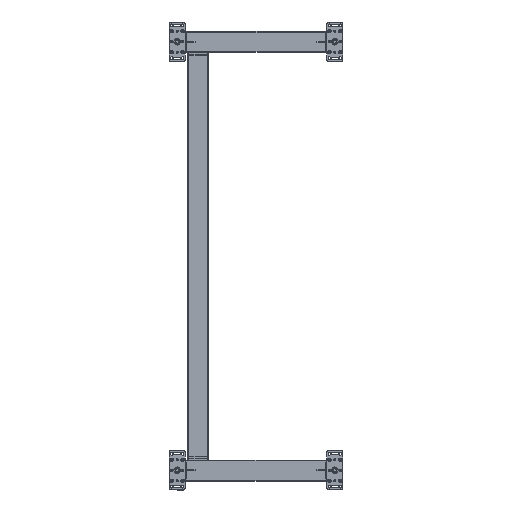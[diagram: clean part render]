
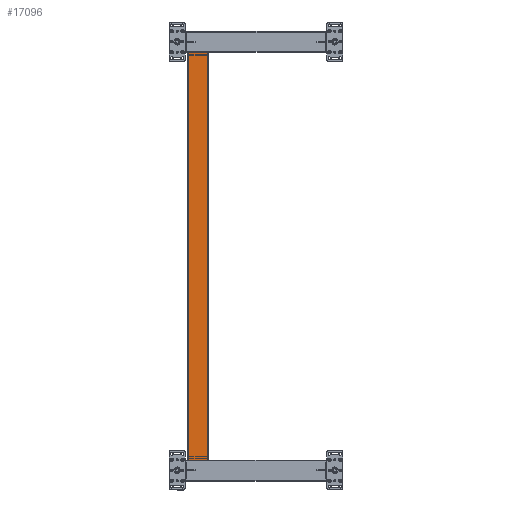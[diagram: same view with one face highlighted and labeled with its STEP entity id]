
A CAD part, top view. The second image highlights one B-rep face of the part: STEP entity #17096.
In plain terms, the highlighted planar face has unit normal (0, 0, 1).
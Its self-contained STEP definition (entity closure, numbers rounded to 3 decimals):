
#1504=LINE('',#35289,#2461);
#1505=LINE('',#35291,#2462);
#1506=LINE('',#35293,#2463);
#1507=LINE('',#35295,#2464);
#2461=VECTOR('',#27247,1000.);
#2462=VECTOR('',#27250,1000.);
#2463=VECTOR('',#27251,1000.);
#2464=VECTOR('',#27252,1000.);
#3490=PLANE('',#22602);
#7489=ORIENTED_EDGE('',*,*,#9984,.F.);
#7490=ORIENTED_EDGE('',*,*,#9983,.F.);
#7491=ORIENTED_EDGE('',*,*,#9985,.T.);
#7492=ORIENTED_EDGE('',*,*,#9986,.T.);
#9983=EDGE_CURVE('',#11559,#11558,#1504,.T.);
#9984=EDGE_CURVE('',#11558,#11560,#1505,.T.);
#9985=EDGE_CURVE('',#11559,#11561,#1506,.T.);
#9986=EDGE_CURVE('',#11561,#11560,#1507,.T.);
#11558=VERTEX_POINT('',#35286);
#11559=VERTEX_POINT('',#35288);
#11560=VERTEX_POINT('',#35292);
#11561=VERTEX_POINT('',#35294);
#13915=EDGE_LOOP('',(#7489,#7490,#7491,#7492));
#15530=FACE_BOUND('',#13915,.T.);
#17096=ADVANCED_FACE('',(#15530),#3490,.T.);
#22602=AXIS2_PLACEMENT_3D('',#35290,#27248,#27249);
#27247=DIRECTION('',(0.,-1.,0.));
#27248=DIRECTION('',(0.,0.,1.));
#27249=DIRECTION('',(1.,0.,0.));
#27250=DIRECTION('',(-1.,0.,0.));
#27251=DIRECTION('',(-1.,0.,0.));
#27252=DIRECTION('',(0.,-1.,0.));
#35286=CARTESIAN_POINT('',(37.,0.,25.));
#35288=CARTESIAN_POINT('',(37.,1550.,25.));
#35289=CARTESIAN_POINT('',(37.,1550.,25.));
#35290=CARTESIAN_POINT('',(37.,1550.,25.));
#35291=CARTESIAN_POINT('',(37.,0.,25.));
#35292=CARTESIAN_POINT('',(-37.,0.,25.));
#35293=CARTESIAN_POINT('',(37.,1550.,25.));
#35294=CARTESIAN_POINT('',(-37.,1550.,25.));
#35295=CARTESIAN_POINT('',(-37.,1550.,25.));
